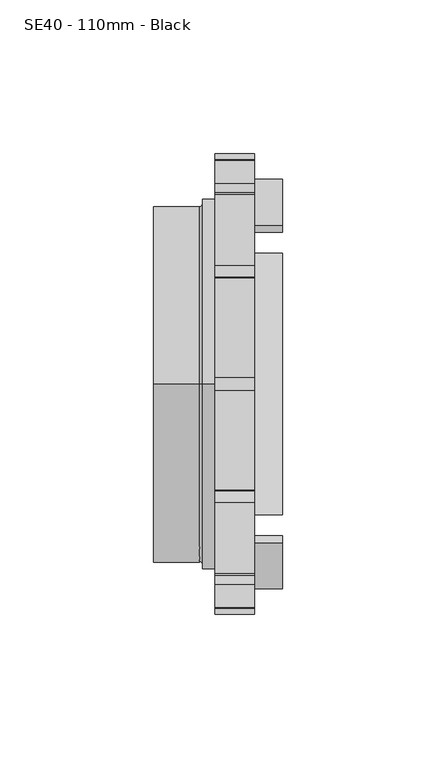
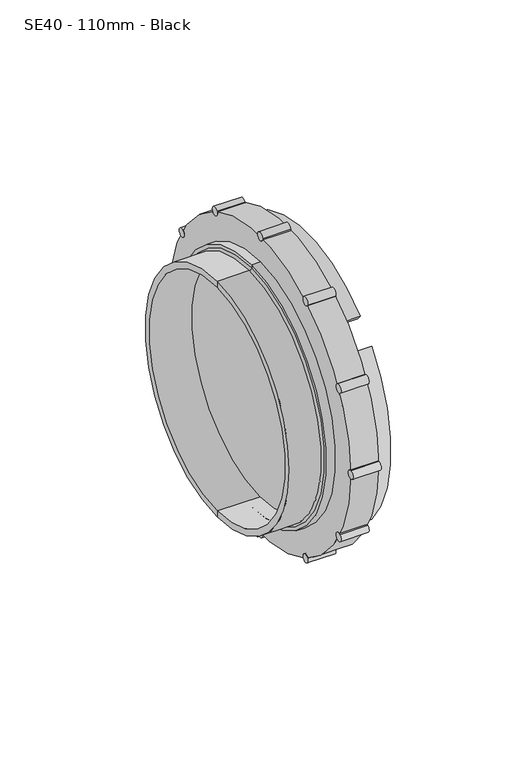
"""IFC4 building model written with IfcOpenShell, lengths in millimetres: pipe fitting geometry, MarleyPlumbingAndDrainage_PipeFitting_AccessCaps : SE40 - 110mm - Black."""

from ifc_helpers import new_model, si_unit, point, frame, frame_2d, origin, origin_2d, place, context, project, spatial, polyline, circle_curve, ellipse_curve, trimmed, segment, composite_curve, outline, extrude, source, transform, mapped, element, save
from ifc_brep_helpers import plane_surface, cylinder_surface, revolved_surface, advanced_brep


def se40_110mm_black_21bf3a31(model_context):
    return source(origin(), model_context, "Body", "SolidModel", [
        extrude(outline(composite_curve([segment(trimmed(circle_curve(frame_2d((63.2198545, 36.5)), 2.0), [point((62.2198545, 38.2320508))], [point((64.2198545, 34.7679492))], False, "CARTESIAN"), True, "CONTINUOUS"), segment(trimmed(circle_curve(frame_2d((63.2198545, 36.5)), 2.0), [point((64.2198545, 34.7679492))], [point((62.2198545, 38.2320508))], False, "CARTESIAN"), True, "CONTINUOUS")], self_intersect=False)), frame((-330.6858175, 0.0, 0.0), z_axis=(1.0, 0.0, 0.0), x_axis=(0.0, 1.0, 0.0)), (0.0, 0.0, 1.0), 13.0),
        extrude(outline(composite_curve([segment(trimmed(circle_curve(frame_2d((73.0, 0.0)), 2.0), [point((73.0, 2.0))], [point((73.0, -2.0))], False, "CARTESIAN"), True, "CONTINUOUS"), segment(trimmed(circle_curve(frame_2d((73.0, 0.0)), 2.0), [point((73.0, -2.0))], [point((73.0, 2.0))], False, "CARTESIAN"), True, "CONTINUOUS")], self_intersect=False)), frame((-330.6858175, 0.0, 0.0), z_axis=(1.0, 0.0, 0.0), x_axis=(0.0, 1.0, 0.0)), (0.0, 0.0, 1.0), 13.0),
        extrude(outline(composite_curve([segment(trimmed(circle_curve(frame_2d((63.2198545, -36.5)), 2.0), [point((64.2198545, -34.7679492))], [point((62.2198545, -38.2320508))], False, "CARTESIAN"), True, "CONTINUOUS"), segment(trimmed(circle_curve(frame_2d((63.2198545, -36.5)), 2.0), [point((62.2198545, -38.2320508))], [point((64.2198545, -34.7679492))], False, "CARTESIAN"), True, "CONTINUOUS")], self_intersect=False)), frame((-330.6858175, 0.0, 0.0), z_axis=(1.0, 0.0, 0.0), x_axis=(0.0, 1.0, 0.0)), (0.0, 0.0, 1.0), 13.0),
        extrude(outline(composite_curve([segment(trimmed(circle_curve(frame_2d((36.5, -63.2198545)), 2.0), [point((38.2320508, -62.2198545))], [point((34.7679492, -64.2198545))], False, "CARTESIAN"), True, "CONTINUOUS"), segment(trimmed(circle_curve(frame_2d((36.5, -63.2198545)), 2.0), [point((34.7679492, -64.2198545))], [point((38.2320508, -62.2198545))], False, "CARTESIAN"), True, "CONTINUOUS")], self_intersect=False)), frame((-330.6858175, 0.0, 0.0), z_axis=(1.0, 0.0, 0.0), x_axis=(0.0, 1.0, 0.0)), (0.0, 0.0, 1.0), 13.0),
        extrude(outline(composite_curve([segment(trimmed(circle_curve(frame_2d((0.0, -73.0)), 2.0), [point((2.0, -73.0))], [point((-2.0, -73.0))], False, "CARTESIAN"), True, "CONTINUOUS"), segment(trimmed(circle_curve(frame_2d((0.0, -73.0)), 2.0), [point((-2.0, -73.0))], [point((2.0, -73.0))], False, "CARTESIAN"), True, "CONTINUOUS")], self_intersect=False)), frame((-330.6858175, 0.0, 0.0), z_axis=(1.0, 0.0, 0.0), x_axis=(0.0, 1.0, 0.0)), (0.0, 0.0, 1.0), 13.0),
        extrude(outline(composite_curve([segment(trimmed(circle_curve(frame_2d((-36.5, -63.2198545)), 2.0), [point((-34.7679492, -64.2198545))], [point((-38.2320508, -62.2198545))], False, "CARTESIAN"), True, "CONTINUOUS"), segment(trimmed(circle_curve(frame_2d((-36.5, -63.2198545)), 2.0), [point((-38.2320508, -62.2198545))], [point((-34.7679492, -64.2198545))], False, "CARTESIAN"), True, "CONTINUOUS")], self_intersect=False)), frame((-330.6858175, 0.0, 0.0), z_axis=(1.0, 0.0, 0.0), x_axis=(0.0, 1.0, 0.0)), (0.0, 0.0, 1.0), 13.0),
        extrude(outline(composite_curve([segment(trimmed(circle_curve(frame_2d((-63.2198545, -36.5)), 2.0), [point((-62.2198545, -38.2320508))], [point((-64.2198545, -34.7679492))], False, "CARTESIAN"), True, "CONTINUOUS"), segment(trimmed(circle_curve(frame_2d((-63.2198545, -36.5)), 2.0), [point((-64.2198545, -34.7679492))], [point((-62.2198545, -38.2320508))], False, "CARTESIAN"), True, "CONTINUOUS")], self_intersect=False)), frame((-330.6858175, 0.0, 0.0), z_axis=(1.0, 0.0, 0.0), x_axis=(0.0, 1.0, 0.0)), (0.0, 0.0, 1.0), 13.0),
        extrude(outline(composite_curve([segment(trimmed(circle_curve(frame_2d((-73.0, 0.0)), 2.0), [point((-73.0, -2.0))], [point((-73.0, 2.0))], False, "CARTESIAN"), True, "CONTINUOUS"), segment(trimmed(circle_curve(frame_2d((-73.0, 0.0)), 2.0), [point((-73.0, 2.0))], [point((-73.0, -2.0))], False, "CARTESIAN"), True, "CONTINUOUS")], self_intersect=False)), frame((-330.6858175, 0.0, 0.0), z_axis=(1.0, 0.0, 0.0), x_axis=(0.0, 1.0, 0.0)), (0.0, 0.0, 1.0), 13.0),
        extrude(outline(composite_curve([segment(trimmed(circle_curve(frame_2d((-63.2198545, 36.5)), 2.0), [point((-64.2198545, 34.7679492))], [point((-62.2198545, 38.2320508))], False, "CARTESIAN"), True, "CONTINUOUS"), segment(trimmed(circle_curve(frame_2d((-63.2198545, 36.5)), 2.0), [point((-62.2198545, 38.2320508))], [point((-64.2198545, 34.7679492))], False, "CARTESIAN"), True, "CONTINUOUS")], self_intersect=False)), frame((-330.6858175, 0.0, 0.0), z_axis=(1.0, 0.0, 0.0), x_axis=(0.0, 1.0, 0.0)), (0.0, 0.0, 1.0), 13.0),
        extrude(outline(composite_curve([segment(trimmed(circle_curve(frame_2d((-36.5, 63.2198545)), 2.0), [point((-38.2320508, 62.2198545))], [point((-34.7679492, 64.2198545))], False, "CARTESIAN"), True, "CONTINUOUS"), segment(trimmed(circle_curve(frame_2d((-36.5, 63.2198545)), 2.0), [point((-34.7679492, 64.2198545))], [point((-38.2320508, 62.2198545))], False, "CARTESIAN"), True, "CONTINUOUS")], self_intersect=False)), frame((-330.6858175, 0.0, 0.0), z_axis=(1.0, 0.0, 0.0), x_axis=(0.0, 1.0, 0.0)), (0.0, 0.0, 1.0), 13.0),
        extrude(outline(composite_curve([segment(trimmed(circle_curve(frame_2d((36.5, 63.2198545)), 2.0), [point((34.7679492, 64.2198545))], [point((38.2320508, 62.2198545))], False, "CARTESIAN"), True, "CONTINUOUS"), segment(trimmed(circle_curve(frame_2d((36.5, 63.2198545)), 2.0), [point((38.2320508, 62.2198545))], [point((34.7679492, 64.2198545))], False, "CARTESIAN"), True, "CONTINUOUS")], self_intersect=False)), frame((-330.6858175, 0.0, 0.0), z_axis=(1.0, 0.0, 0.0), x_axis=(0.0, 1.0, 0.0)), (0.0, 0.0, 1.0), 13.0),
        extrude(outline(composite_curve([segment(trimmed(circle_curve(frame_2d((0.0, 73.0)), 2.0), [point((-2.0, 73.0))], [point((2.0, 73.0))], False, "CARTESIAN"), True, "CONTINUOUS"), segment(trimmed(circle_curve(frame_2d((0.0, 73.0)), 2.0), [point((2.0, 73.0))], [point((-2.0, 73.0))], False, "CARTESIAN"), True, "CONTINUOUS")], self_intersect=False)), frame((-330.6858175, 0.0, 0.0), z_axis=(1.0, 0.0, 0.0), x_axis=(0.0, 1.0, 0.0)), (0.0, 0.0, 1.0), 13.0),
        advanced_brep(
        [(-317.6858175, -73.0, 0.0), (-317.6858175, 73.0, 0.0), (-317.6858175, -26.7878403, -64.6715673), (-317.6858175, -25.63979, -61.8999287), (-317.6858175, 25.63979, -61.8999287), (-317.6858175, 26.7878403, -64.6715673), (-317.6858175, 64.6715673, -26.7878403), (-317.6858175, 61.8999287, -25.63979), (-317.6858175, 61.8999287, 25.63979), (-317.6858175, 64.6715673, 26.7878403), (-317.6858175, -61.8999287, 25.63979), (-317.6858175, -61.8999287, -25.63979), (-317.6858175, -64.6715673, -26.7878403), (-317.6858175, -64.6715673, 26.7878403), (-317.6858175, -25.63979, 61.8999287), (-317.6858175, -26.7878403, 64.6715673), (-317.6858175, 26.7878403, 64.6715673), (-317.6858175, 25.63979, 61.8999287), (-330.6858175, -73.0, 0.0), (-330.6858175, 73.0, 0.0), (-330.6858175, 0.0, -60.5), (-330.6858175, 0.0, 60.5), (-330.6858175, 0.0, 55.0), (-330.6858175, 0.0, -55.0), (-324.3925353, -25.63979, -61.8999287), (-324.3925353, -26.7878403, -64.6715673), (-324.3925353, 26.7878403, -64.6715673), (-324.3925353, 25.63979, -61.8999287), (-324.3925353, 61.8999287, -25.63979), (-324.3925353, 64.6715673, -26.7878403), (-324.3925353, 64.6715673, 26.7878403), (-324.3925353, 61.8999287, 25.63979), (-324.3925353, -61.8999287, -25.63979), (-324.3925353, -61.8999287, 25.63979), (-324.3925353, -64.6715673, 26.7878403), (-324.3925353, -64.6715673, -26.7878403), (-324.3925353, -26.7878403, 64.6715673), (-324.3925353, -25.63979, 61.8999287), (-324.3925353, 25.63979, 61.8999287), (-324.3925353, 26.7878403, 64.6715673), (-334.6858175, 0.0, -60.5), (-334.6858175, 0.0, 60.5), (-334.6858175, 0.0, -59.0), (-334.6858175, 0.0, 59.0), (-335.6858175, 0.0, -58.0), (-335.6858175, 0.0, 58.0), (-350.6858175, 0.0, -58.0), (-350.6858175, 0.0, 58.0), (-350.6858175, 0.0, -55.0), (-350.6858175, 0.0, 55.0)],
        [
            (0, 1, circle_curve(frame((-317.6858175, 0.0, 0.0), z_axis=(1.0, 0.0, 0.0), x_axis=(0.0, 1.0, 0.0)), 73.0)),
            (1, 0, circle_curve(frame((-317.6858175, 0.0, 0.0), z_axis=(1.0, 0.0, 0.0), x_axis=(0.0, 1.0, 0.0)), 73.0)),
            (2, 3),
            (3, 4, circle_curve(frame((-317.6858175, 0.0, 0.0), z_axis=(1.0, 0.0, 0.0), x_axis=(0.0, 1.0, 0.0)), 67.0)),
            (4, 5),
            (5, 2, circle_curve(frame((-317.6858175, 0.0, 0.0), z_axis=(-1.0, 0.0, 0.0), x_axis=(0.0, 1.0, 0.0)), 70.0)),
            (6, 7),
            (7, 8, circle_curve(frame((-317.6858175, 0.0, 0.0), z_axis=(1.0, 0.0, 0.0), x_axis=(0.0, 1.0, 0.0)), 67.0)),
            (8, 9),
            (9, 6, circle_curve(frame((-317.6858175, 0.0, 0.0), z_axis=(-1.0, 0.0, 0.0), x_axis=(0.0, 1.0, 0.0)), 70.0)),
            (10, 11, circle_curve(frame((-317.6858175, 0.0, 0.0), z_axis=(1.0, 0.0, 0.0), x_axis=(0.0, 1.0, 0.0)), 67.0)),
            (11, 12),
            (12, 13, circle_curve(frame((-317.6858175, 0.0, 0.0), z_axis=(-1.0, 0.0, 0.0), x_axis=(0.0, 1.0, 0.0)), 70.0)),
            (13, 10),
            (14, 15),
            (15, 16, circle_curve(frame((-317.6858175, 0.0, 0.0), z_axis=(-1.0, 0.0, 0.0), x_axis=(0.0, 1.0, 0.0)), 70.0)),
            (16, 17),
            (17, 14, circle_curve(frame((-317.6858175, 0.0, 0.0), z_axis=(1.0, 0.0, 0.0), x_axis=(0.0, 1.0, 0.0)), 67.0)),
            (18, 19, circle_curve(frame((-330.6858175, 0.0, 0.0), z_axis=(-1.0, 0.0, 0.0), x_axis=(0.0, 1.0, 0.0)), 73.0)),
            (19, 18, circle_curve(frame((-330.6858175, 0.0, 0.0), z_axis=(-1.0, 0.0, 0.0), x_axis=(0.0, 1.0, 0.0)), 73.0)),
            (20, 21, circle_curve(frame((-330.6858175, 0.0, 0.0), z_axis=(1.0, 0.0, 0.0), x_axis=(0.0, 0.0, 1.0)), 60.5)),
            (21, 20, circle_curve(frame((-330.6858175, 0.0, 0.0), z_axis=(1.0, 0.0, 0.0), x_axis=(0.0, 0.0, 1.0)), 60.5)),
            (22, 23, circle_curve(frame((-330.6858175, 0.0, 0.0), z_axis=(-1.0, 0.0, 0.0), x_axis=(0.0, 0.0, 1.0)), 55.0)),
            (23, 22, circle_curve(frame((-330.6858175, 0.0, 0.0), z_axis=(-1.0, 0.0, 0.0), x_axis=(0.0, 0.0, 1.0)), 55.0)),
            (0, 18),
            (19, 1),
            (24, 25),
            (25, 26, circle_curve(frame((-324.3925353, 0.0, 0.0), z_axis=(1.0, 0.0, 0.0), x_axis=(0.0, 1.0, 0.0)), 70.0)),
            (26, 27),
            (27, 24, circle_curve(frame((-324.3925353, 0.0, 0.0), z_axis=(-1.0, 0.0, 0.0), x_axis=(0.0, 1.0, 0.0)), 67.0)),
            (28, 29),
            (29, 30, circle_curve(frame((-324.3925353, 0.0, 0.0), z_axis=(1.0, 0.0, 0.0), x_axis=(0.0, 1.0, 0.0)), 70.0)),
            (30, 31),
            (31, 28, circle_curve(frame((-324.3925353, 0.0, 0.0), z_axis=(-1.0, 0.0, 0.0), x_axis=(0.0, 1.0, 0.0)), 67.0)),
            (32, 33, circle_curve(frame((-324.3925353, 0.0, 0.0), z_axis=(-1.0, 0.0, 0.0), x_axis=(0.0, 1.0, 0.0)), 67.0)),
            (33, 34),
            (34, 35, circle_curve(frame((-324.3925353, 0.0, 0.0), z_axis=(1.0, 0.0, 0.0), x_axis=(0.0, 1.0, 0.0)), 70.0)),
            (35, 32),
            (36, 37),
            (37, 38, circle_curve(frame((-324.3925353, 0.0, 0.0), z_axis=(-1.0, 0.0, 0.0), x_axis=(0.0, 1.0, 0.0)), 67.0)),
            (38, 39),
            (39, 36, circle_curve(frame((-324.3925353, 0.0, 0.0), z_axis=(1.0, 0.0, 0.0), x_axis=(0.0, 1.0, 0.0)), 70.0)),
            (24, 3),
            (2, 25),
            (5, 26),
            (4, 27),
            (28, 7),
            (6, 29),
            (9, 30),
            (8, 31),
            (32, 11),
            (10, 33),
            (13, 34),
            (12, 35),
            (36, 15),
            (14, 37),
            (17, 38),
            (16, 39),
            (40, 41, circle_curve(frame((-334.6858175, 0.0, 0.0), z_axis=(1.0, 0.0, 0.0), x_axis=(0.0, 0.0, 1.0)), 60.5)),
            (41, 21),
            (20, 40),
            (41, 40, circle_curve(frame((-334.6858175, 0.0, 0.0), z_axis=(1.0, 0.0, 0.0), x_axis=(0.0, 0.0, 1.0)), 60.5)),
            (40, 42),
            (42, 43, circle_curve(frame((-334.6858175, 0.0, 0.0), z_axis=(1.0, 0.0, 0.0), x_axis=(0.0, 0.0, 1.0)), 59.0)),
            (43, 41),
            (43, 42, circle_curve(frame((-334.6858175, 0.0, 0.0), z_axis=(1.0, 0.0, 0.0), x_axis=(0.0, 0.0, 1.0)), 59.0)),
            (42, 44, circle_curve(frame((-335.6858175, 0.0, -59.0), z_axis=(0.0, -1.0, 0.0), x_axis=(1.0, 0.0, 0.0)), 1.0)),
            (44, 45, circle_curve(frame((-335.6858175, 0.0, 0.0), z_axis=(1.0, 0.0, 0.0), x_axis=(0.0, 0.0, 1.0)), 58.0)),
            (45, 43, circle_curve(frame((-335.6858175, 0.0, 59.0), z_axis=(0.0, -1.0, 0.0), x_axis=(1.0, 0.0, 0.0)), 1.0)),
            (45, 44, circle_curve(frame((-335.6858175, 0.0, 0.0), z_axis=(1.0, 0.0, 0.0), x_axis=(0.0, 0.0, 1.0)), 58.0)),
            (44, 46),
            (46, 47, circle_curve(frame((-350.6858175, 0.0, 0.0), z_axis=(1.0, 0.0, 0.0), x_axis=(0.0, 0.0, 1.0)), 58.0)),
            (47, 45),
            (47, 46, circle_curve(frame((-350.6858175, 0.0, 0.0), z_axis=(1.0, 0.0, 0.0), x_axis=(0.0, 0.0, 1.0)), 58.0)),
            (46, 48),
            (48, 49, circle_curve(frame((-350.6858175, 0.0, 0.0), z_axis=(1.0, 0.0, 0.0), x_axis=(0.0, 0.0, 1.0)), 55.0)),
            (49, 47),
            (49, 48, circle_curve(frame((-350.6858175, 0.0, 0.0), z_axis=(1.0, 0.0, 0.0), x_axis=(0.0, 0.0, 1.0)), 55.0)),
            (48, 23),
            (22, 49),
        ],
        [
            plane_surface(frame((-317.6858175, 73.0, 0.0), z_axis=(1.0, 0.0, 0.0), x_axis=(0.0, 0.0, 1.0))),
            plane_surface(frame((-330.6858175, 73.0, 0.0), z_axis=(-1.0, 0.0, 0.0), x_axis=(0.0, 0.0, -1.0))),
            cylinder_surface(frame((-330.6858175, 0.0, 0.0), z_axis=(1.0, 0.0, 0.0), x_axis=(0.0, 1.0, 0.0)), 73.0),
            plane_surface(frame((-324.3925353, -26.7878403, -64.6715673), z_axis=(1.0, 0.0, 0.0), x_axis=(0.0, 0.38268343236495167, 0.9238795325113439))),
            plane_surface(frame((-317.6858175, -25.63979, -61.8999287), z_axis=(0.0, 0.9238795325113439, -0.38268343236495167), x_axis=(-1.0, 0.0, 0.0))),
            revolved_surface(polyline([(-317.6858175, 70.0, 0.0), (-324.3925353, 70.0, 0.0)]), (-324.3925353, 0.0, 0.0), (1.0, 0.0, 0.0)),
            plane_surface(frame((-317.6858175, 26.7878403, -64.6715673), z_axis=(0.0, -0.9238795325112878, -0.3826834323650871), x_axis=(-1.0, 0.0, 0.0))),
            cylinder_surface(frame((-324.3925353, 0.0, 0.0), z_axis=(-1.0, 0.0, 0.0), x_axis=(0.0, 1.0, 0.0)), 67.0),
            plane_surface(frame((-317.6858175, 61.8999287, -25.63979), z_axis=(0.0, 0.38268343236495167, 0.9238795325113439), x_axis=(-1.0, 0.0, 0.0))),
            revolved_surface(polyline([(-317.6858175, 70.0, 0.0), (-324.3925353, 70.0, 0.0)]), (-330.6858175, 0.0, 0.0), (1.0, 0.0, 0.0)),
            plane_surface(frame((-317.6858175, 64.6715673, 26.7878403), z_axis=(0.0, 0.3826834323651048, -0.9238795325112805), x_axis=(-1.0, 0.0, 0.0))),
            cylinder_surface(frame((-330.6858175, 0.0, 0.0), z_axis=(-1.0, 0.0, 0.0), x_axis=(0.0, 1.0, 0.0)), 67.0),
            plane_surface(frame((-317.6858175, -61.8999287, 25.63979), z_axis=(0.0, -0.3826834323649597, -0.9238795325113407), x_axis=(-1.0, 0.0, 0.0))),
            plane_surface(frame((-317.6858175, -64.6715673, -26.7878403), z_axis=(0.0, -0.3826834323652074, 0.923879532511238), x_axis=(-1.0, 0.0, 0.0))),
            plane_surface(frame((-317.6858175, -26.7878403, 64.6715673), z_axis=(0.0, 0.9238795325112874, 0.3826834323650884), x_axis=(-1.0, 0.0, 0.0))),
            plane_surface(frame((-317.6858175, 25.63979, 61.8999287), z_axis=(0.0, -0.9238795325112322, 0.38268343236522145), x_axis=(-1.0, 0.0, 0.0))),
            cylinder_surface(frame((-1509.0299635, 0.0, 0.0), z_axis=(-1.0, 0.0, 0.0), x_axis=(0.0, 0.0, 1.0)), 60.5),
            plane_surface(frame((-334.6858175, 0.0, 0.0), z_axis=(-1.0, 0.0, 0.0), x_axis=(0.0, 0.0, 1.0))),
            revolved_surface(trimmed(ellipse_curve(frame((-335.6858175, 0.0, 59.0), z_axis=(0.0, 1.0, 0.0), x_axis=(1.0, 0.0, 0.0)), 1.0, 1.0), [point((-334.6858175, 0.0, 59.0))], [point((-335.6858175, 0.0, 58.0))], True, "CARTESIAN"), (-1509.0299635, 0.0, 0.0), (-1.0, 0.0, 0.0)),
            cylinder_surface(frame((-1509.0299635, 0.0, 0.0), z_axis=(-1.0, 0.0, 0.0), x_axis=(0.0, 0.0, 1.0)), 58.0),
            plane_surface(frame((-350.6858175, 0.0, 0.0), z_axis=(-1.0, 0.0, 0.0), x_axis=(0.0, 0.0, 1.0))),
            revolved_surface(polyline([(-350.6858175, 0.0, 55.0), (-330.6858175, 0.0, 55.0)]), (-1509.0299635, 0.0, 0.0), (-1.0, 0.0, 0.0)),
        ],
        [
            (0, [[1, 2], [3, 4, 5, 6], [7, 8, 9, 10], [11, 12, 13, 14], [15, 16, 17, 18]]),
            (1, [[19, 20], [21, 22]]),
            (1, [[23, 24]]),
            (2, [[-1, 25, -20, 26]]),
            (2, [[-2, -26, -19, -25]]),
            (3, [[27, 28, 29, 30]]),
            (3, [[31, 32, 33, 34]]),
            (3, [[35, 36, 37, 38]]),
            (3, [[39, 40, 41, 42]]),
            (4, [[-27, 43, -3, 44]]),
            (5, [[-28, -44, -6, 45]]),
            (6, [[-29, -45, -5, 46]]),
            (7, [[-30, -46, -4, -43]]),
            (8, [[-31, 47, -7, 48]]),
            (9, [[-32, -48, -10, 49]]),
            (10, [[-33, -49, -9, 50]]),
            (11, [[-34, -50, -8, -47]]),
            (11, [[-35, 51, -11, 52]]),
            (12, [[-36, -52, -14, 53]]),
            (9, [[-37, -53, -13, 54]]),
            (13, [[-38, -54, -12, -51]]),
            (14, [[-39, 55, -15, 56]]),
            (11, [[-40, -56, -18, 57]]),
            (15, [[-41, -57, -17, 58]]),
            (9, [[-42, -58, -16, -55]]),
            (16, [[59, 60, -21, 61]]),
            (16, [[-60, 62, -61, -22]]),
            (17, [[-59, 63, 64, 65]]),
            (17, [[-62, -65, 66, -63]]),
            (18, [[-64, 67, 68, 69]]),
            (18, [[-66, -69, 70, -67]]),
            (19, [[-68, 71, 72, 73]]),
            (19, [[-70, -73, 74, -71]]),
            (20, [[-72, 75, 76, 77]]),
            (20, [[-74, -77, 78, -75]]),
            (21, [[-76, 79, -23, 80]]),
            (21, [[-78, -80, -24, -79]]),
        ],
    ),
        extrude(outline(composite_curve([segment(trimmed(circle_curve(origin_2d(), 64.0), [point((40.7090061, 49.3839733))], [point((-40.7090061, 49.3839733))], True, "CARTESIAN"), True, "CONTINUOUS"), segment(polyline([(-40.7090061, 49.3839733), (-42.6172408, 51.6988471)]), True, "CONTINUOUS"), segment(trimmed(circle_curve(origin_2d(), 67.0), [point((-42.6172408, 51.6988471))], [point((42.6172408, 51.6988471))], False, "CARTESIAN"), True, "CONTINUOUS"), segment(polyline([(42.6172408, 51.6988471), (40.7090061, 49.3839733)]), True, "CONTINUOUS")], self_intersect=False)), frame((-317.6858175, 0.0, 0.0), z_axis=(1.0, 0.0, 0.0), x_axis=(0.0, 1.0, 0.0)), (0.0, 0.0, 1.0), 9.0),
        extrude(outline(composite_curve([segment(trimmed(circle_curve(origin_2d(), 64.0), [point((-49.3839733, 40.7090061))], [point((-49.3839733, -40.7090061))], True, "CARTESIAN"), True, "CONTINUOUS"), segment(polyline([(-49.3839733, -40.7090061), (-51.6988471, -42.6172408)]), True, "CONTINUOUS"), segment(trimmed(circle_curve(origin_2d(), 67.0), [point((-51.6988471, -42.6172408))], [point((-51.6988471, 42.6172408))], False, "CARTESIAN"), True, "CONTINUOUS"), segment(polyline([(-51.6988471, 42.6172408), (-49.3839733, 40.7090061)]), True, "CONTINUOUS")], self_intersect=False)), frame((-317.6858175, 0.0, 0.0), z_axis=(1.0, 0.0, 0.0), x_axis=(0.0, 1.0, 0.0)), (0.0, 0.0, 1.0), 9.0),
        extrude(outline(composite_curve([segment(polyline([(49.3839733, 40.7090061), (51.6988471, 42.6172408)]), True, "CONTINUOUS"), segment(trimmed(circle_curve(origin_2d(), 67.0), [point((51.6988471, 42.6172408))], [point((51.6988471, -42.6172408))], False, "CARTESIAN"), True, "CONTINUOUS"), segment(polyline([(51.6988471, -42.6172408), (49.3839733, -40.7090061)]), True, "CONTINUOUS"), segment(trimmed(circle_curve(origin_2d(), 64.0), [point((49.3839733, -40.7090061))], [point((49.3839733, 40.7090061))], True, "CARTESIAN"), True, "CONTINUOUS")], self_intersect=False)), frame((-317.6858175, 0.0, 0.0), z_axis=(1.0, 0.0, 0.0), x_axis=(0.0, 1.0, 0.0)), (0.0, 0.0, 1.0), 9.0),
        extrude(outline(composite_curve([segment(trimmed(circle_curve(origin_2d(), 67.0), [point((42.6172408, -51.6988471))], [point((-42.6172408, -51.6988471))], False, "CARTESIAN"), True, "CONTINUOUS"), segment(polyline([(-42.6172408, -51.6988471), (-40.7090061, -49.3839733)]), True, "CONTINUOUS"), segment(trimmed(circle_curve(origin_2d(), 64.0), [point((-40.7090061, -49.3839733))], [point((40.7090061, -49.3839733))], True, "CARTESIAN"), True, "CONTINUOUS"), segment(polyline([(40.7090061, -49.3839733), (42.6172408, -51.6988471)]), True, "CONTINUOUS")], self_intersect=False)), frame((-317.6858175, 0.0, 0.0), z_axis=(1.0, 0.0, 0.0), x_axis=(0.0, 1.0, 0.0)), (0.0, 0.0, 1.0), 9.0),
    ])


if __name__ == "__main__":
    model = new_model("IFC4")
    model_context = context("Model", 3, world=origin())
    ifc_project = project(units=[si_unit("LENGTHUNIT", "METRE", prefix="MILLI")], contexts=[model_context])
    site = spatial("IfcSite", under=ifc_project)
    building = spatial("IfcBuilding", under=site)
    placement = place(None, origin())
    se40_110mm_black_shape = se40_110mm_black_21bf3a31(model_context)
    element("IfcPipeFitting", 1, ObjectType="MarleyPlumbingAndDrainage_PipeFitting_AccessCaps : SE40 - 110mm - Black", at=placement, inside=building, context=model_context, shape_type="MappedRepresentation", body=[
        mapped(se40_110mm_black_shape, transform((0.0, 0.0, 0.0), x_axis=(1.0, 0.0, 0.0), y_axis=(0.0, 1.0, 0.0), z_axis=(0.0, 0.0, 1.0))),
    ])
    save(model, "model.ifc")
